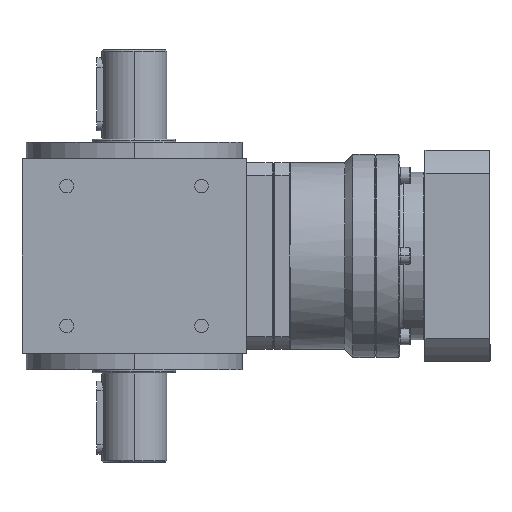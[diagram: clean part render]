
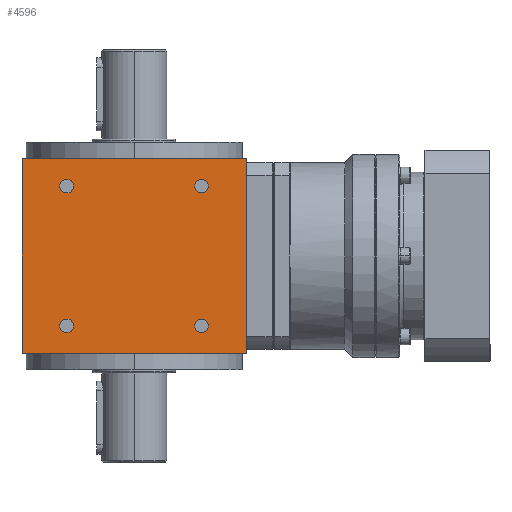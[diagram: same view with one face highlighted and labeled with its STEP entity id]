
A CAD part, left-side view. The second image highlights one B-rep face of the part: STEP entity #4596.
In plain terms, the highlighted planar face has unit normal (-1, 0, 0).
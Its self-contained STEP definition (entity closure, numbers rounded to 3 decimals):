
#263 = DIRECTION ( 'NONE',  ( 0., -1., 0. ) ) ;
#441 = ORIENTED_EDGE ( 'NONE', *, *, #25570, .T. ) ;
#1476 = CARTESIAN_POINT ( 'NONE',  ( -69., 69., -60. ) ) ;
#1478 = EDGE_LOOP ( 'NONE', ( #8948, #14533 ) ) ;
#1971 = FACE_OUTER_BOUND ( 'NONE', #20267, .T. ) ;
#2133 = VERTEX_POINT ( 'NONE', #15087 ) ;
#2249 = EDGE_CURVE ( 'NONE', #5887, #19930, #16247, .T. ) ;
#2816 = DIRECTION ( 'NONE',  ( 0., -1., 0. ) ) ;
#3011 = CARTESIAN_POINT ( 'NONE',  ( -69., 69., -60. ) ) ;
#3077 = CIRCLE ( 'NONE', #31449, 4.2 ) ;
#3349 = CARTESIAN_POINT ( 'NONE',  ( -69., -69., -60. ) ) ;
#3474 = CARTESIAN_POINT ( 'NONE',  ( -69., 69., -60. ) ) ;
#3591 = CIRCLE ( 'NONE', #4665, 4.2 ) ;
#3819 = DIRECTION ( 'NONE',  ( 0., -1., 0. ) ) ;
#3841 = EDGE_CURVE ( 'NONE', #21046, #2133, #26051, .T. ) ;
#4091 = DIRECTION ( 'NONE',  ( 0., -1., 0. ) ) ;
#4161 = EDGE_LOOP ( 'NONE', ( #22464, #24482 ) ) ;
#4290 = EDGE_CURVE ( 'NONE', #28401, #7164, #3077, .T. ) ;
#4354 = CARTESIAN_POINT ( 'NONE',  ( -69., -37.3, 43. ) ) ;
#4380 = DIRECTION ( 'NONE',  ( 0., -1., 0. ) ) ;
#4596 = ADVANCED_FACE ( 'NONE', ( #19601, #9038, #14219, #16591, #1971 ), #26952, .T. ) ;
#4665 = AXIS2_PLACEMENT_3D ( 'NONE', #20996, #17921, #23119 ) ;
#4714 = DIRECTION ( 'NONE',  ( 0., -1., 0. ) ) ;
#5059 = VECTOR ( 'NONE', #8385, 1000. ) ;
#5208 = DIRECTION ( 'NONE',  ( 1., 0., 0. ) ) ;
#5881 = EDGE_LOOP ( 'NONE', ( #20847, #25160 ) ) ;
#5887 = VERTEX_POINT ( 'NONE', #1476 ) ;
#7041 = CARTESIAN_POINT ( 'NONE',  ( -69., -41.5, -43. ) ) ;
#7164 = VERTEX_POINT ( 'NONE', #20639 ) ;
#7219 = CARTESIAN_POINT ( 'NONE',  ( -69., 41.5, -43. ) ) ;
#7316 = CARTESIAN_POINT ( 'NONE',  ( -69., 41.5, 43. ) ) ;
#7519 = CARTESIAN_POINT ( 'NONE',  ( -69., -69., -60. ) ) ;
#7814 = CARTESIAN_POINT ( 'NONE',  ( -69., 0., 60. ) ) ;
#8189 = EDGE_CURVE ( 'NONE', #29220, #9769, #10547, .T. ) ;
#8385 = DIRECTION ( 'NONE',  ( 0., 0., 1. ) ) ;
#8948 = ORIENTED_EDGE ( 'NONE', *, *, #25316, .T. ) ;
#9038 = FACE_BOUND ( 'NONE', #1478, .T. ) ;
#9310 = ORIENTED_EDGE ( 'NONE', *, *, #2249, .T. ) ;
#9357 = ORIENTED_EDGE ( 'NONE', *, *, #10928, .F. ) ;
#9389 = DIRECTION ( 'NONE',  ( 0., -1., 0. ) ) ;
#9392 = DIRECTION ( 'NONE',  ( 0., -1., 0. ) ) ;
#9586 = VECTOR ( 'NONE', #18237, 1000. ) ;
#9769 = VERTEX_POINT ( 'NONE', #29051 ) ;
#10500 = ORIENTED_EDGE ( 'NONE', *, *, #31609, .F. ) ;
#10547 = CIRCLE ( 'NONE', #16972, 4.2 ) ;
#10691 = CARTESIAN_POINT ( 'NONE',  ( -69., 37.3, -43. ) ) ;
#10813 = EDGE_LOOP ( 'NONE', ( #19870, #24022 ) ) ;
#10843 = DIRECTION ( 'NONE',  ( 1., 0., 0. ) ) ;
#10928 = EDGE_CURVE ( 'NONE', #24987, #17918, #31127, .T. ) ;
#11536 = CIRCLE ( 'NONE', #24406, 4.2 ) ;
#11674 = AXIS2_PLACEMENT_3D ( 'NONE', #27302, #30001, #3819 ) ;
#11888 = CARTESIAN_POINT ( 'NONE',  ( -69., 45.7, 43. ) ) ;
#14219 = FACE_BOUND ( 'NONE', #10813, .T. ) ;
#14533 = ORIENTED_EDGE ( 'NONE', *, *, #3841, .T. ) ;
#15087 = CARTESIAN_POINT ( 'NONE',  ( -69., -45.7, 43. ) ) ;
#15655 = CARTESIAN_POINT ( 'NONE',  ( -69., 69., 60. ) ) ;
#15952 = LINE ( 'NONE', #3349, #5059 ) ;
#16247 = LINE ( 'NONE', #3474, #27554 ) ;
#16591 = FACE_BOUND ( 'NONE', #4161, .T. ) ;
#16971 = AXIS2_PLACEMENT_3D ( 'NONE', #18576, #10843, #263 ) ;
#16972 = AXIS2_PLACEMENT_3D ( 'NONE', #29258, #32275, #4091 ) ;
#17255 = CARTESIAN_POINT ( 'NONE',  ( -69., -37.3, -43. ) ) ;
#17284 = CARTESIAN_POINT ( 'NONE',  ( -69., -69., 60. ) ) ;
#17918 = VERTEX_POINT ( 'NONE', #17284 ) ;
#17921 = DIRECTION ( 'NONE',  ( 1., 0., 0. ) ) ;
#18237 = DIRECTION ( 'NONE',  ( 0., -1., 0. ) ) ;
#18576 = CARTESIAN_POINT ( 'NONE',  ( -69., -41.5, 43. ) ) ;
#19601 = FACE_BOUND ( 'NONE', #5881, .T. ) ;
#19870 = ORIENTED_EDGE ( 'NONE', *, *, #22520, .T. ) ;
#19930 = VERTEX_POINT ( 'NONE', #7519 ) ;
#20267 = EDGE_LOOP ( 'NONE', ( #441, #9357, #10500, #9310 ) ) ;
#20639 = CARTESIAN_POINT ( 'NONE',  ( -69., 45.7, -43. ) ) ;
#20847 = ORIENTED_EDGE ( 'NONE', *, *, #4290, .T. ) ;
#20943 = CARTESIAN_POINT ( 'NONE',  ( -69., -45.7, -43. ) ) ;
#20996 = CARTESIAN_POINT ( 'NONE',  ( -69., -41.5, -43. ) ) ;
#21046 = VERTEX_POINT ( 'NONE', #4354 ) ;
#21223 = AXIS2_PLACEMENT_3D ( 'NONE', #7316, #28428, #27779 ) ;
#21629 = CIRCLE ( 'NONE', #23773, 4.2 ) ;
#21674 = EDGE_CURVE ( 'NONE', #9769, #29220, #22298, .T. ) ;
#22298 = CIRCLE ( 'NONE', #21223, 4.2 ) ;
#22464 = ORIENTED_EDGE ( 'NONE', *, *, #21674, .T. ) ;
#22520 = EDGE_CURVE ( 'NONE', #29351, #22765, #3591, .T. ) ;
#22765 = VERTEX_POINT ( 'NONE', #17255 ) ;
#23119 = DIRECTION ( 'NONE',  ( 0., -1., 0. ) ) ;
#23319 = DIRECTION ( 'NONE',  ( 0., 0., 1. ) ) ;
#23773 = AXIS2_PLACEMENT_3D ( 'NONE', #7219, #5208, #4714 ) ;
#24022 = ORIENTED_EDGE ( 'NONE', *, *, #26582, .T. ) ;
#24406 = AXIS2_PLACEMENT_3D ( 'NONE', #7041, #24516, #9392 ) ;
#24482 = ORIENTED_EDGE ( 'NONE', *, *, #8189, .T. ) ;
#24514 = CARTESIAN_POINT ( 'NONE',  ( -69., 41.5, -43. ) ) ;
#24516 = DIRECTION ( 'NONE',  ( 1., 0., 0. ) ) ;
#24987 = VERTEX_POINT ( 'NONE', #15655 ) ;
#25160 = ORIENTED_EDGE ( 'NONE', *, *, #32526, .T. ) ;
#25316 = EDGE_CURVE ( 'NONE', #2133, #21046, #31922, .T. ) ;
#25570 = EDGE_CURVE ( 'NONE', #19930, #17918, #15952, .T. ) ;
#25978 = LINE ( 'NONE', #3011, #29061 ) ;
#26051 = CIRCLE ( 'NONE', #16971, 4.2 ) ;
#26582 = EDGE_CURVE ( 'NONE', #22765, #29351, #11536, .T. ) ;
#26952 = PLANE ( 'NONE',  #11674 ) ;
#27094 = AXIS2_PLACEMENT_3D ( 'NONE', #29884, #27354, #4380 ) ;
#27302 = CARTESIAN_POINT ( 'NONE',  ( -69., 69., -60. ) ) ;
#27354 = DIRECTION ( 'NONE',  ( 1., 0., 0. ) ) ;
#27554 = VECTOR ( 'NONE', #2816, 1000. ) ;
#27779 = DIRECTION ( 'NONE',  ( 0., -1., 0. ) ) ;
#28401 = VERTEX_POINT ( 'NONE', #10691 ) ;
#28428 = DIRECTION ( 'NONE',  ( 1., 0., 0. ) ) ;
#29051 = CARTESIAN_POINT ( 'NONE',  ( -69., 37.3, 43. ) ) ;
#29061 = VECTOR ( 'NONE', #23319, 1000. ) ;
#29220 = VERTEX_POINT ( 'NONE', #11888 ) ;
#29258 = CARTESIAN_POINT ( 'NONE',  ( -69., 41.5, 43. ) ) ;
#29351 = VERTEX_POINT ( 'NONE', #20943 ) ;
#29884 = CARTESIAN_POINT ( 'NONE',  ( -69., -41.5, 43. ) ) ;
#30001 = DIRECTION ( 'NONE',  ( -1., 0., 0. ) ) ;
#30188 = DIRECTION ( 'NONE',  ( 1., 0., 0. ) ) ;
#31127 = LINE ( 'NONE', #7814, #9586 ) ;
#31449 = AXIS2_PLACEMENT_3D ( 'NONE', #24514, #30188, #9389 ) ;
#31609 = EDGE_CURVE ( 'NONE', #5887, #24987, #25978, .T. ) ;
#31922 = CIRCLE ( 'NONE', #27094, 4.2 ) ;
#32275 = DIRECTION ( 'NONE',  ( 1., 0., 0. ) ) ;
#32526 = EDGE_CURVE ( 'NONE', #7164, #28401, #21629, .T. ) ;
